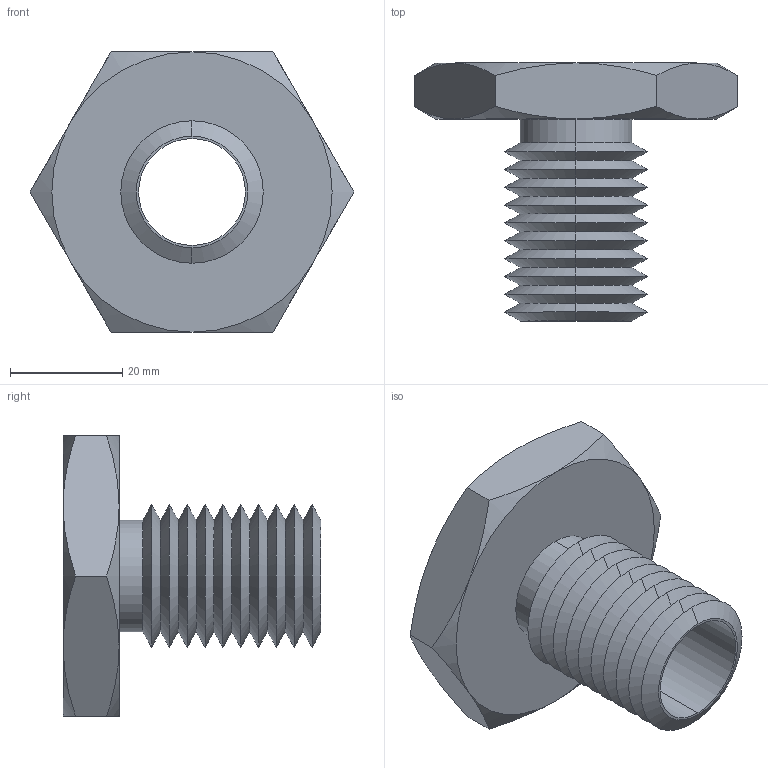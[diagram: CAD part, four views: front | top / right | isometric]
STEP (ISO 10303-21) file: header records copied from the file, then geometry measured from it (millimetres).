
FILE_DESCRIPTION (( 'STEP AP203' ), '1' );
FILE_NAME ('63302.W5100_0,75 UNC-10.step', '2013-12-08T11:41:06', ( 'User' ), ( '' ), 'SwSTEP 2.0', 'SolidWorks 2009', '' );
FILE_SCHEMA (( 'CONFIG_CONTROL_DESIGN' ));
Length unit declared in the file: millimetre
Products named in the file (1): 63302.W5100_0,75 UNC-10
Bounding box: 57.73 x 46 x 50 mm (x, y, z)
Volume: 22234.8 mm3; surface area: 12748.8 mm2
Topology: 1 solids, 1 shells, 67 faces, 138 edges, 74 vertices
Faces by surface type: cone 54, plane 9, cylinder 4
Entity records: 1939 total; most frequent: CARTESIAN_POINT 464, DIRECTION 312, ORIENTED_EDGE 276, EDGE_CURVE 138, AXIS2_PLACEMENT_3D 130, VERTEX_POINT 74, EDGE_LOOP 70, ADVANCED_FACE 67
